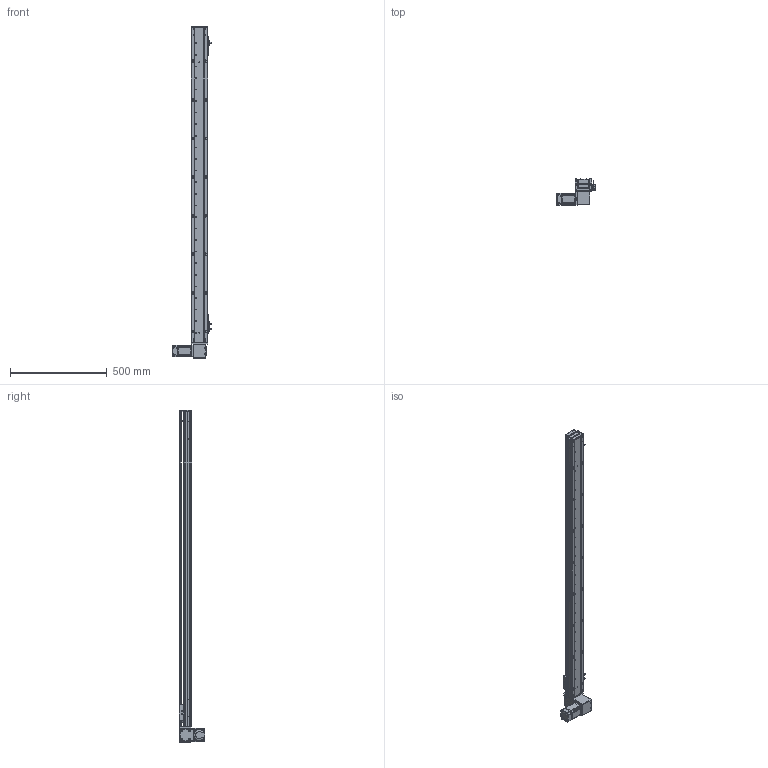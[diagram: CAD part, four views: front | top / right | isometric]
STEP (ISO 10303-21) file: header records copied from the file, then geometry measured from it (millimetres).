
FILE_DESCRIPTION (( 'STEP AP203' ), '1' );
FILE_NAME ('RY80-T-300-DL.SLDASM_1450.step', '2021-03-01T01:39:13', ( '盈信电脑' ), ( '东莞市道滘镇水果街19号' ), 'SwSTEP 2.0', 'SolidWorks 2012', '' );
FILE_SCHEMA (( 'CONFIG_CONTROL_DESIGN' ));
Length unit declared in the file: millimetre
Products named in the file (19): RY80-T-300-DL.SLDASM_1450; RY80-T-上下折同步轮盖板; RY100-T粣創揤踡裔; RY80-T肮祭謫狟殏俋欶; RY80-T-M4蹟翐3; RY80-T萇儂假蚾啣; 1; RY80-T翋肮祭謫裔啣; 滅袉蝶18-10; RY80-T肮祭湍揤輸2; RY80-T肮祭湍揤輸1; RY80-T-翋肮祭謫釱; RY80-T綴裔啣; RY80俋离覜茼え; 覜茼ん672; 672嫖萇羲壽假蚾釱; RY80-T肮祭謫臏賑輸; RY80-T-300-DL倰第奻裔啣_1450; RY80-T-300-DL倰第菁釱_1450
Assembly tree (24 placements, depth 2):
  RY80-T-300-DL.SLDASM_1450
    RY80-T-300-DL倰第菁釱_1450
    RY80-T肮祭謫臏賑輸
    RY80-T-300-DL倰第奻裔啣_1450
    RY80-T綴裔啣
    672嫖萇羲壽假蚾釱  x2
    覜茼ん672  x3
    RY80俋离覜茼え
    RY80-T-翋肮祭謫釱
    RY80-T肮祭湍揤輸1
    RY80-T肮祭湍揤輸2
    RY80-T萇儂假蚾啣
    RY80-T翋肮祭謫裔啣  x2
    滅袉蝶18-10  x2
    1
    RY80-T肮祭謫狟殏俋欶
    RY80-T-M4蹟翐3  x2
    RY80-T-上下折同步轮盖板
    RY100-T粣創揤踡裔
Bounding box: 198.7 x 134.5 x 1720 mm (x, y, z)
Volume: 2770617.7 mm3; surface area: 1183898.4 mm2
Topology: 24 solids, 24 shells, 2546 faces, 7030 edges, 4565 vertices
Faces by surface type: plane 1349, cylinder 991, cone 150, bspline 56
Entity records: 80487 total; most frequent: CARTESIAN_POINT 19696, ORIENTED_EDGE 12504, DIRECTION 11740, EDGE_CURVE 6252, VERTEX_POINT 4106, AXIS2_PLACEMENT_3D 3966, LINE 3808, VECTOR 3808
